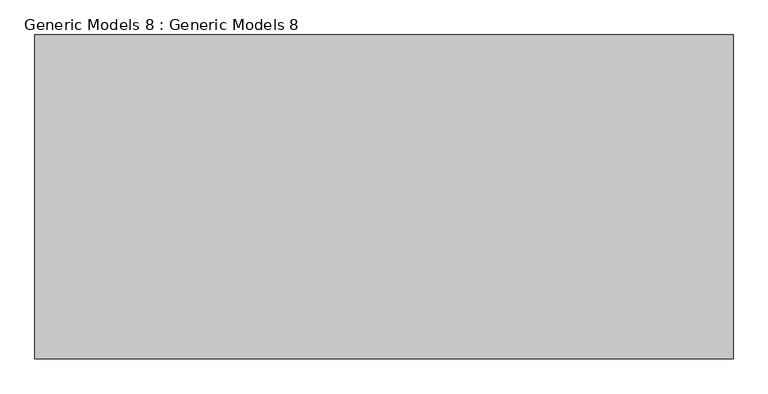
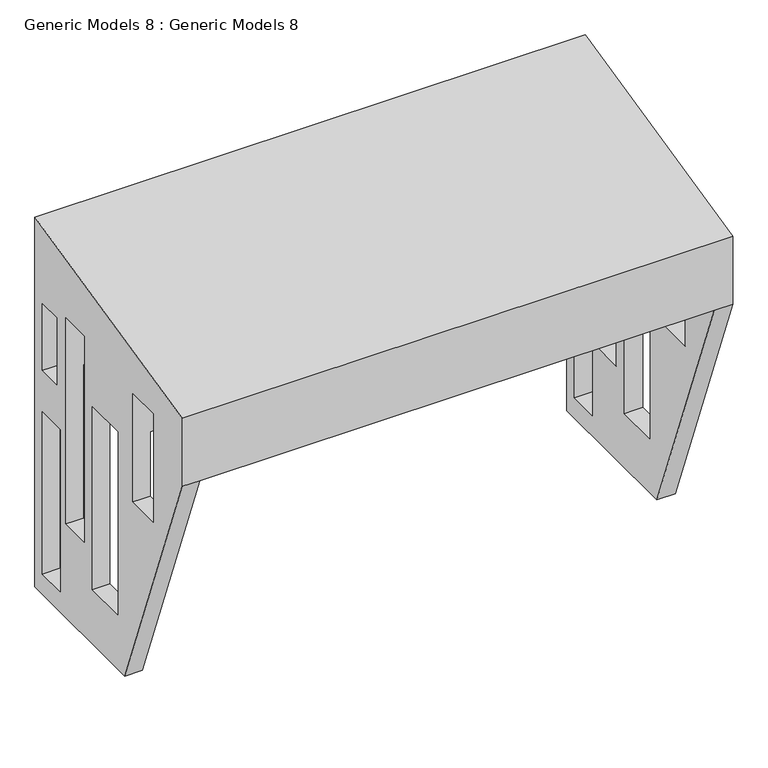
"""IFC4 building model written with IfcOpenShell, lengths in millimetres: proxy geometry, Generic Models 8 : Generic Models 8."""

from ifc_helpers import new_model, si_unit, origin, place, context, project, spatial, faceted_brep, source, transform, mapped, element, save


def generic_models_8_generic_models_8_17cfe582(model_context):
    return source(origin(), model_context, "Body", "Brep", [
        faceted_brep([(34805.6536999, 14016.1328043, 2963.5829413), (40655.0606025, 14016.1328043, 2963.5829413), (40864.1830624, 14016.1328043, 2963.5829413), (40864.1830624, 14016.1328043, 3781.3462774), (34608.8334971, 14016.1328043, 3781.3462774), (34608.8334971, 14016.1328043, 2963.5829413), (40864.1830624, 16916.0716817, 4440.0), (40864.1830624, 16916.0716817, 0.0), (40655.0606025, 16916.0716817, 0.0), (40655.0606025, 16916.0716817, 2963.5829413), (34805.6536999, 16916.0716817, 2963.5829413), (34805.6536999, 16916.0716817, 0.0), (34608.8334971, 16916.0716817, 0.0), (34608.8334971, 16916.0716817, 4440.0), (34608.8334971, 15144.5313399, 0.0), (34608.8334971, 14988.7079824, 2188.1635598), (34608.8334971, 14988.7079824, 3490.3060993), (34608.8334971, 14585.7715871, 3490.3060993), (34608.8334971, 14585.7715871, 2188.1635598), (34608.8334971, 15287.7962606, 648.2384695), (34608.8334971, 15787.7962606, 648.2384695), (34608.8334971, 15787.7962606, 2848.2384695), (34608.8334971, 15287.7962606, 2848.2384695), (34608.8334971, 16310.1734065, 1122.0), (34608.8334971, 16310.1734065, 3600.0), (34608.8334971, 15944.5290197, 3600.0), (34608.8334971, 15944.5290197, 1122.0), (34608.8334971, 16420.0941211, 240.6112398), (34608.8334971, 16771.1064578, 240.6112398), (34608.8334971, 16771.1064578, 2188.1635598), (34608.8334971, 16420.0941211, 2188.1635598), (34608.8334971, 16771.1064578, 2686.3746184), (34608.8334971, 16771.1064578, 3490.3060993), (34608.8334971, 16488.0319927, 3490.3060993), (34608.8334971, 16488.0319927, 2686.3746184), (40864.1830624, 15144.5313399, 0.0), (40655.0606025, 15144.5313399, 0.0), (40864.1830624, 14988.7079824, 3490.3060993), (40864.1830624, 14988.7079824, 2188.1635598), (40864.1830624, 14585.7715871, 2188.1635598), (40864.1830624, 14585.7715871, 3490.3060993), (40864.1830624, 15787.7962606, 648.2384695), (40864.1830624, 15287.7962606, 648.2384695), (40864.1830624, 15287.7962606, 2848.2384695), (40864.1830624, 15787.7962606, 2848.2384695), (40864.1830624, 16310.1734065, 3600.0), (40864.1830624, 16310.1734065, 1122.0), (40864.1830624, 15944.5290197, 1122.0), (40864.1830624, 15944.5290197, 3600.0), (40864.1830624, 16771.1064578, 240.6112398), (40864.1830624, 16420.0941211, 240.6112398), (40864.1830624, 16420.0941211, 2188.1635598), (40864.1830624, 16771.1064578, 2188.1635598), (40864.1830624, 16771.1064578, 3490.3060993), (40864.1830624, 16771.1064578, 2686.3746184), (40864.1830624, 16488.0319927, 2686.3746184), (40864.1830624, 16488.0319927, 3490.3060993), (40655.0606025, 14585.7715871, 2963.5829413), (40655.0606025, 14585.7715871, 2188.1635598), (40655.0606025, 14988.7079824, 2188.1635598), (40655.0606025, 14988.7079824, 2963.5829413), (40655.0606025, 15944.5290197, 2963.5829413), (40655.0606025, 15944.5290197, 1122.0), (40655.0606025, 16310.1734065, 1122.0), (40655.0606025, 16310.1734065, 2963.5829413), (40655.0606025, 16488.0319927, 2963.5829413), (40655.0606025, 16488.0319927, 2686.3746184), (40655.0606025, 16771.1064578, 2686.3746184), (40655.0606025, 16771.1064578, 2963.5829413), (40655.0606025, 15287.7962606, 648.2384695), (40655.0606025, 15787.7962606, 648.2384695), (40655.0606025, 15787.7962606, 2848.2384695), (40655.0606025, 15287.7962606, 2848.2384695), (40655.0606025, 16420.0941211, 240.6112398), (40655.0606025, 16771.1064578, 240.6112398), (40655.0606025, 16771.1064578, 2188.1635598), (40655.0606025, 16420.0941211, 2188.1635598), (34805.6536999, 16771.1064578, 2963.5829413), (34805.6536999, 16771.1064578, 2686.3746184), (34805.6536999, 16488.0319927, 2686.3746184), (34805.6536999, 16488.0319927, 2963.5829413), (34805.6536999, 16310.1734065, 2963.5829413), (34805.6536999, 16310.1734065, 1122.0), (34805.6536999, 15944.5290197, 1122.0), (34805.6536999, 15944.5290197, 2963.5829413), (34805.6536999, 14988.7079824, 2963.5829413), (34805.6536999, 14988.7079824, 2188.1635598), (34805.6536999, 14585.7715871, 2188.1635598), (34805.6536999, 14585.7715871, 2963.5829413), (34805.6536999, 15144.5313399, 0.0), (34805.6536999, 15787.7962606, 648.2384695), (34805.6536999, 15287.7962606, 648.2384695), (34805.6536999, 15287.7962606, 2848.2384695), (34805.6536999, 15787.7962606, 2848.2384695), (34805.6536999, 16771.1064578, 240.6112398), (34805.6536999, 16420.0941211, 240.6112398), (34805.6536999, 16420.0941211, 2188.1635598), (34805.6536999, 16771.1064578, 2188.1635598)], [[[0, 1, 2, 3, 4, 5]], [[6, 7, 8, 9, 10, 11, 12, 13]], [[13, 12, 14, 5, 4], [15, 16, 17, 18], [19, 20, 21, 22], [23, 24, 25, 26], [27, 28, 29, 30], [31, 32, 33, 34]], [[8, 7, 35, 36]], [[7, 6, 3, 2, 35], [37, 38, 39, 40], [41, 42, 43, 44], [45, 46, 47, 48], [49, 50, 51, 52], [53, 54, 55, 56]], [[9, 8, 36, 1, 57, 58, 59, 60, 61, 62, 63, 64, 65, 66, 67, 68], [69, 70, 71, 72], [73, 74, 75, 76]], [[11, 10, 77, 78, 79, 80, 81, 82, 83, 84, 85, 86, 87, 88, 0, 89], [90, 91, 92, 93], [94, 95, 96, 97]], [[1, 0, 88, 57]], [[10, 9, 68, 77]], [[61, 60, 85, 84]], [[65, 64, 81, 80]], [[12, 11, 89, 14]], [[2, 1, 36, 35]], [[0, 5, 14, 89]], [[4, 3, 6, 13]], [[37, 16, 15, 86, 85, 60, 59, 38]], [[86, 15, 18, 87]], [[38, 59, 58, 39]], [[39, 58, 57, 88, 87, 18, 17, 40]], [[16, 37, 40, 17]], [[41, 70, 69, 42]], [[90, 20, 19, 91]], [[42, 69, 72, 43]], [[91, 19, 22, 92]], [[43, 72, 71, 44]], [[92, 22, 21, 93]], [[70, 41, 44, 71]], [[20, 90, 93, 21]], [[45, 24, 23, 82, 81, 64, 63, 46]], [[82, 23, 26, 83]], [[46, 63, 62, 47]], [[47, 62, 61, 84, 83, 26, 25, 48]], [[24, 45, 48, 25]], [[49, 74, 73, 50]], [[94, 28, 27, 95]], [[50, 73, 76, 51]], [[95, 27, 30, 96]], [[51, 76, 75, 52]], [[96, 30, 29, 97]], [[74, 49, 52, 75]], [[28, 94, 97, 29]], [[53, 32, 31, 78, 77, 68, 67, 54]], [[78, 31, 34, 79]], [[54, 67, 66, 55]], [[55, 66, 65, 80, 79, 34, 33, 56]], [[32, 53, 56, 33]]]),
    ])


if __name__ == "__main__":
    model = new_model("IFC4")
    model_context = context("Model", 3, world=origin())
    ifc_project = project(units=[si_unit("LENGTHUNIT", "METRE", prefix="MILLI")], contexts=[model_context])
    site = spatial("IfcSite", under=ifc_project)
    building = spatial("IfcBuilding", under=site)
    placement = place(None, origin())
    generic_models_8_generic_models_8_shape = generic_models_8_generic_models_8_17cfe582(model_context)
    element("IfcBuildingElementProxy", 1, Name="Generic Models 8 : Generic Models 8", ObjectType="Generic Models 8 : Generic Models 8", at=placement, inside=building, context=model_context, shape_type="MappedRepresentation", body=[
        mapped(generic_models_8_generic_models_8_shape, transform((0.0, 0.0, 0.0), x_axis=(1.0, 0.0, 0.0), y_axis=(0.0, 1.0, 0.0), z_axis=(0.0, 0.0, 1.0))),
    ])
    save(model, "model.ifc")
